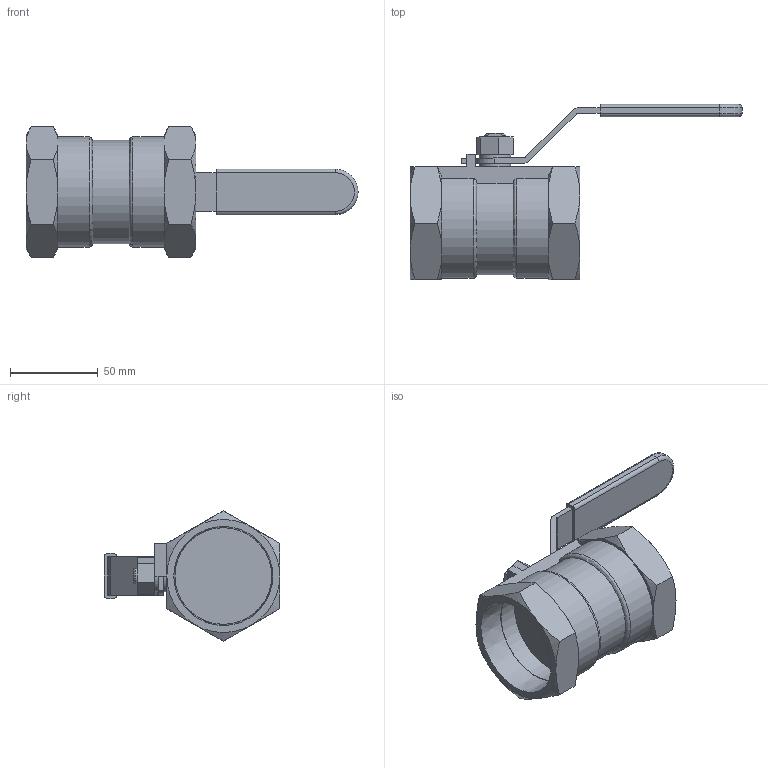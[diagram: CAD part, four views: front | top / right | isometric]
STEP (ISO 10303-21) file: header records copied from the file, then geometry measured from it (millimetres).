
FILE_DESCRIPTION(/* description */ ('Eriks item no: 12427448'),/* implementation_level */ '2;1');
FILE_NAME(/* name */ '7744-DN50-RB-1000PSI-NPT.stp',/* time_stamp */ '2024-02-16T13:16:22+01:00',/* author */ ('roger.thijssen'),/* organization */ (''),/* preprocessor_version */ 'ST-DEVELOPER v19.2',/* originating_system */ 'Autodesk Inventor 2024',/* authorisation */ '');
FILE_SCHEMA (('AUTOMOTIVE_DESIGN { 1 0 10303 214 3 1 1 }'));
Length unit declared in the file: millimetre
Products named in the file (1): Ball valve, 7744-DN50-RB-1000PSI-NPT
Bounding box: 189.5 x 100.25 x 74.48 mm (x, y, z)
Volume: 213518.1 mm3; surface area: 47832.7 mm2
Topology: 1 solids, 1 shells, 294 faces, 762 edges, 500 vertices
Faces by surface type: plane 207, cylinder 46, cone 28, bspline 9, torus 4
Full cylindrical faces by diameter (mm): 18 x2, 55.169 x2
Entity records: 9332 total; most frequent: CARTESIAN_POINT 1861, ORIENTED_EDGE 1524, DIRECTION 1384, EDGE_CURVE 762, LINE 564, VECTOR 564, VERTEX_POINT 500, AXIS2_PLACEMENT_3D 410
